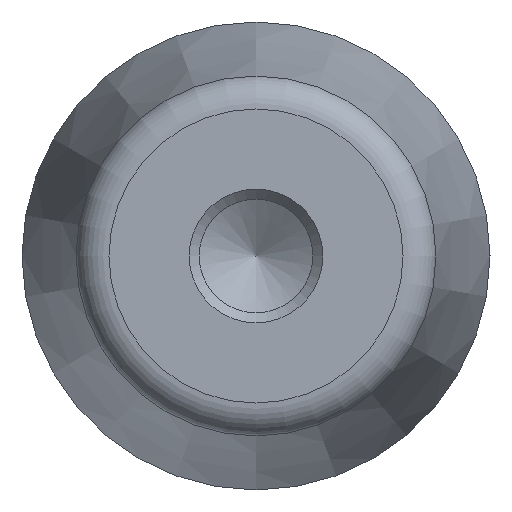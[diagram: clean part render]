
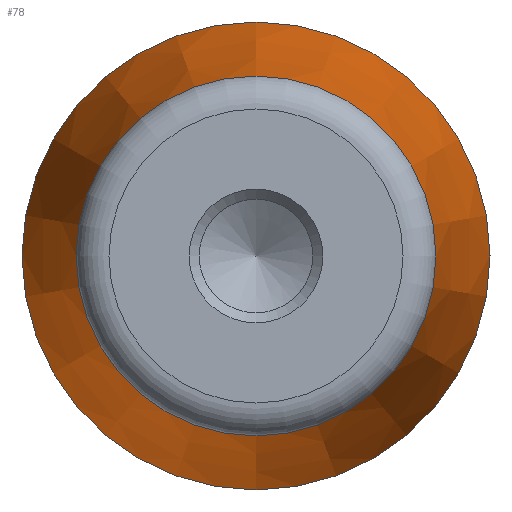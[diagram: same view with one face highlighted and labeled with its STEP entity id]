
A CAD part, left-side view. The second image highlights one B-rep face of the part: STEP entity #78.
In plain terms, the highlighted conical face has half-angle 10 degrees and reference radius 10.765 mm.
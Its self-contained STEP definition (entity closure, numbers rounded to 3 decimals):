
#27=CARTESIAN_POINT('',(1.653,0.,-10.765));
#28=VERTEX_POINT('',#27);
#36=CARTESIAN_POINT('',(1.653,0.,0.));
#37=DIRECTION('',(-0.,0.,-1.));
#38=DIRECTION('',(1.,-0.,0.));
#39=AXIS2_PLACEMENT_3D('',#36,#38,#37);
#40=CIRCLE('',#39,10.765);
#41=EDGE_CURVE('',#28,#28,#40,.T.);
#54=CARTESIAN_POINT('',(1.653,0.,0.));
#55=DIRECTION('',(0.,0.,-1.));
#56=DIRECTION('',(1.,0.,0.));
#57=AXIS2_PLACEMENT_3D('',#54,#56,#55);
#58=CONICAL_SURFACE('',#57,10.765,0.175);
#59=CARTESIAN_POINT('',(20.,0.,-14.));
#60=VERTEX_POINT('',#59);
#61=CARTESIAN_POINT('',(1.653,0.,-10.765));
#62=DIRECTION('',(0.985,0.,-0.174));
#63=VECTOR('',#62,18.63);
#64=LINE('',#61,#63);
#65=EDGE_CURVE('',#28,#60,#64,.T.);
#66=ORIENTED_EDGE('E2',*,*,#65,.T.);
#67=CARTESIAN_POINT('',(20.,0.,0.));
#68=DIRECTION('',(-0.,0.,-1.));
#69=DIRECTION('',(1.,0.,0.));
#70=AXIS2_PLACEMENT_3D('',#67,#69,#68);
#71=CIRCLE('',#70,14.);
#72=EDGE_CURVE('',#60,#60,#71,.T.);
#73=ORIENTED_EDGE('E7',*,*,#72,.T.);
#74=ORIENTED_EDGE('E7',*,*,#65,.F.);
#75=ORIENTED_EDGE('E7',*,*,#41,.F.);
#76=EDGE_LOOP('',(#66,#73,#74,#75));
#77=FACE_OUTER_BOUND('',#76,.F.);
#78=ADVANCED_FACE('F3',(#77),#58,.T.);
